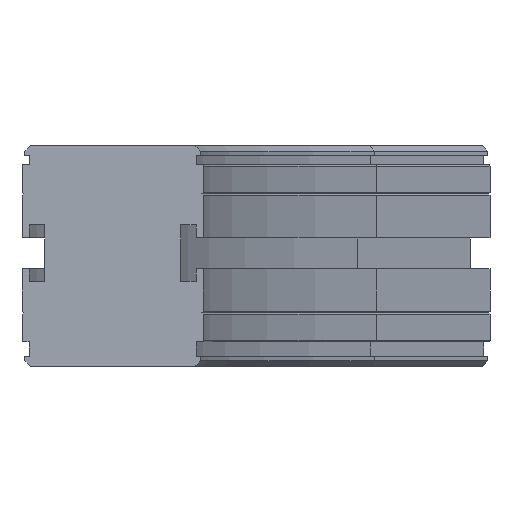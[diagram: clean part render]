
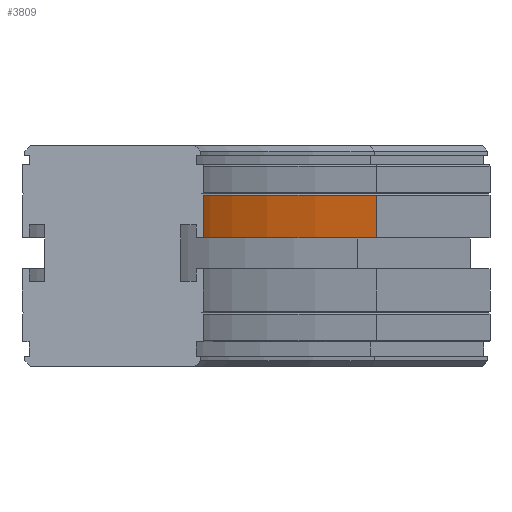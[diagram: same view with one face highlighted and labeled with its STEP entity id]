
A CAD part, left-side view. The second image highlights one B-rep face of the part: STEP entity #3809.
In plain terms, the highlighted cylindrical face has radius 457 mm (diameter 914 mm), a partial arc.
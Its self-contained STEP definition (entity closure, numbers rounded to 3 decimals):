
#2518=CARTESIAN_POINT('',(308.5,-93.226,-17.5));
#2519=VERTEX_POINT('',#2518);
#2526=CARTESIAN_POINT('',(308.5,-93.226,-32.5));
#2527=VERTEX_POINT('',#2526);
#2528=CARTESIAN_POINT('',(308.5,-93.226,-32.5));
#2529=DIRECTION('',(0.0,0.0,1.0));
#2530=VECTOR('',#2529,15.);
#2531=LINE('',#2528,#2530);
#2532=EDGE_CURVE('',#2527,#2519,#2531,.T.);
#3777=CARTESIAN_POINT('',(80.,-489.,-25.));
#3778=DIRECTION('',(0.0,0.0,-1.0));
#3779=DIRECTION('',(-0.5,-0.866,0.0));
#3780=AXIS2_PLACEMENT_3D('',#3777,#3778,#3779);
#3781=CYLINDRICAL_SURFACE('',#3780,457.);
#3782=ORIENTED_EDGE('',*,*,#2532,.T.);
#3783=CARTESIAN_POINT('',(80.0,-32.0,-17.5));
#3784=VERTEX_POINT('',#3783);
#3785=CARTESIAN_POINT('',(80.,-489.,-17.5));
#3786=DIRECTION('',(0.0,0.0,-1.0));
#3787=DIRECTION('',(-0.5,-0.866,0.0));
#3788=AXIS2_PLACEMENT_3D('',#3785,#3786,#3787);
#3789=CIRCLE('',#3788,457.);
#3790=EDGE_CURVE('',#3784,#2519,#3789,.T.);
#3791=ORIENTED_EDGE('',*,*,#3790,.F.);
#3792=CARTESIAN_POINT('',(80.0,-32.0,-32.5));
#3793=VERTEX_POINT('',#3792);
#3794=CARTESIAN_POINT('',(80.0,-32.0,-32.5));
#3795=DIRECTION('',(0.0,0.0,1.0));
#3796=VECTOR('',#3795,15.);
#3797=LINE('',#3794,#3796);
#3798=EDGE_CURVE('',#3793,#3784,#3797,.T.);
#3799=ORIENTED_EDGE('',*,*,#3798,.F.);
#3800=CARTESIAN_POINT('',(80.,-489.,-32.5));
#3801=DIRECTION('',(0.0,0.0,-1.0));
#3802=DIRECTION('',(-0.5,-0.866,0.0));
#3803=AXIS2_PLACEMENT_3D('',#3800,#3801,#3802);
#3804=CIRCLE('',#3803,457.);
#3805=EDGE_CURVE('',#3793,#2527,#3804,.T.);
#3806=ORIENTED_EDGE('',*,*,#3805,.T.);
#3807=EDGE_LOOP('',(#3782,#3791,#3799,#3806));
#3808=FACE_OUTER_BOUND('',#3807,.T.);
#3809=ADVANCED_FACE('',(#3808),#3781,.F.);
